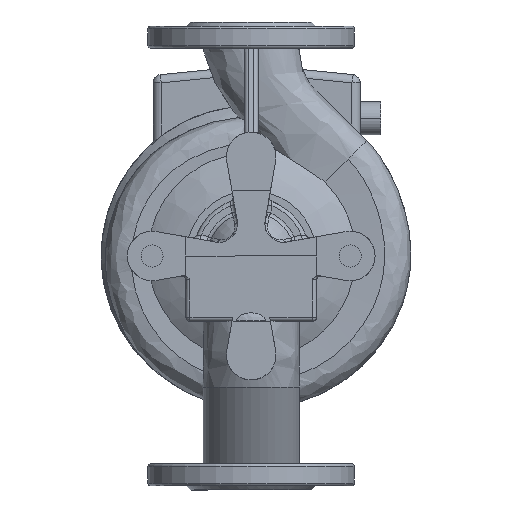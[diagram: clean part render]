
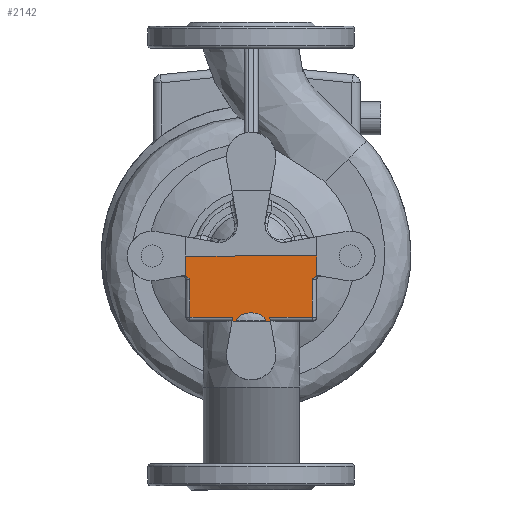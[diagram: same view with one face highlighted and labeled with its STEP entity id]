
A CAD part, front view. The second image highlights one B-rep face of the part: STEP entity #2142.
In plain terms, the highlighted planar face has unit normal (0, -1, 0).
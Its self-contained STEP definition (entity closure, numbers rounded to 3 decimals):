
#830=FACE_OUTER_BOUND('',#6216,.T.);
#1817=B_SPLINE_CURVE_WITH_KNOTS('',3,(#29228,#29229,#29230,#29231),
 .UNSPECIFIED.,.F.,.F.,(4,4),(0.,1.),.UNSPECIFIED.);
#1818=B_SPLINE_CURVE_WITH_KNOTS('',3,(#29233,#29234,#29235,#29236,#29237,
#29238,#29239,#29240,#29241,#29242,#29243,#29244,#29245,#29246),
 .UNSPECIFIED.,.F.,.F.,(4,2,2,2,2,2,4),(0.,0.125,0.25,0.5,0.75,0.875,1.),
 .UNSPECIFIED.);
#1819=B_SPLINE_CURVE_WITH_KNOTS('',3,(#29248,#29249,#29250,#29251),
 .UNSPECIFIED.,.F.,.F.,(4,4),(0.,1.),.UNSPECIFIED.);
#1820=B_SPLINE_CURVE_WITH_KNOTS('',3,(#29256,#29257,#29258,#29259,#29260,
#29261,#29262,#29263,#29264,#29265,#29266,#29267,#29268),.UNSPECIFIED.,
 .F.,.F.,(4,1,2,2,2,2,4),(0.,0.125,0.188,0.25,
0.5,0.75,1.),.UNSPECIFIED.);
#1821=B_SPLINE_CURVE_WITH_KNOTS('',3,(#29276,#29277,#29278,#29279,#29280,
#29281,#29282,#29283,#29284,#29285,#29286,#29287,#29288),.UNSPECIFIED.,
 .F.,.F.,(4,2,2,1,2,2,4),(0.,0.25,0.5,0.625,
0.688,0.75,1.),.UNSPECIFIED.);
#2142=ADVANCED_FACE('',(#830),#3125,.F.);
#3125=PLANE('',#18184);
#3679=LINE('',#29189,#4850);
#3683=LINE('',#29197,#4854);
#3687=LINE('',#29206,#4858);
#3688=LINE('',#29218,#4859);
#3693=LINE('',#29226,#4864);
#3694=LINE('',#29252,#4865);
#3695=LINE('',#29254,#4866);
#3696=LINE('',#29270,#4867);
#3697=LINE('',#29272,#4868);
#3698=LINE('',#29274,#4869);
#3699=LINE('',#29290,#4870);
#4850=VECTOR('',#20668,1.);
#4854=VECTOR('',#20672,1.);
#4858=VECTOR('',#20682,1.);
#4859=VECTOR('',#20685,1.);
#4864=VECTOR('',#20694,1.);
#4865=VECTOR('',#20695,1.);
#4866=VECTOR('',#20696,1.);
#4867=VECTOR('',#20697,1.);
#4868=VECTOR('',#20698,1.);
#4869=VECTOR('',#20699,1.);
#4870=VECTOR('',#20700,1.);
#6216=EDGE_LOOP('',(#7911,#7912,#7913,#7914,#7915,#7916,#7917,#7918,#7919,
#7920,#7921,#7922,#7923,#7924,#7925,#7926));
#7911=ORIENTED_EDGE('',*,*,#14638,.T.);
#7912=ORIENTED_EDGE('',*,*,#14630,.T.);
#7913=ORIENTED_EDGE('',*,*,#14621,.T.);
#7914=ORIENTED_EDGE('',*,*,#14639,.T.);
#7915=ORIENTED_EDGE('',*,*,#14640,.T.);
#7916=ORIENTED_EDGE('',*,*,#14641,.T.);
#7917=ORIENTED_EDGE('',*,*,#14625,.T.);
#7918=ORIENTED_EDGE('',*,*,#14633,.T.);
#7919=ORIENTED_EDGE('',*,*,#14642,.T.);
#7920=ORIENTED_EDGE('',*,*,#14643,.T.);
#7921=ORIENTED_EDGE('',*,*,#14644,.T.);
#7922=ORIENTED_EDGE('',*,*,#14645,.T.);
#7923=ORIENTED_EDGE('',*,*,#14646,.T.);
#7924=ORIENTED_EDGE('',*,*,#14647,.T.);
#7925=ORIENTED_EDGE('',*,*,#14648,.T.);
#7926=ORIENTED_EDGE('',*,*,#14649,.T.);
#12855=VERTEX_POINT('',#29187);
#12856=VERTEX_POINT('',#29188);
#12857=VERTEX_POINT('',#29190);
#12860=VERTEX_POINT('',#29196);
#12863=VERTEX_POINT('',#29207);
#12864=VERTEX_POINT('',#29217);
#12866=VERTEX_POINT('',#29227);
#12867=VERTEX_POINT('',#29232);
#12868=VERTEX_POINT('',#29247);
#12869=VERTEX_POINT('',#29253);
#12870=VERTEX_POINT('',#29255);
#12871=VERTEX_POINT('',#29269);
#12872=VERTEX_POINT('',#29271);
#12873=VERTEX_POINT('',#29273);
#12874=VERTEX_POINT('',#29275);
#12875=VERTEX_POINT('',#29289);
#14621=EDGE_CURVE('',#12857,#12855,#3679,.T.);
#14625=EDGE_CURVE('',#12856,#12860,#3683,.T.);
#14630=EDGE_CURVE('',#12863,#12857,#3687,.T.);
#14633=EDGE_CURVE('',#12860,#12864,#3688,.T.);
#14638=EDGE_CURVE('',#12866,#12863,#3693,.T.);
#14639=EDGE_CURVE('',#12855,#12867,#1817,.T.);
#14640=EDGE_CURVE('',#12867,#12868,#1818,.T.);
#14641=EDGE_CURVE('',#12868,#12856,#1819,.T.);
#14642=EDGE_CURVE('',#12864,#12869,#3694,.T.);
#14643=EDGE_CURVE('',#12869,#12870,#3695,.T.);
#14644=EDGE_CURVE('',#12870,#12871,#1820,.T.);
#14645=EDGE_CURVE('',#12871,#12872,#3696,.T.);
#14646=EDGE_CURVE('',#12872,#12873,#3697,.T.);
#14647=EDGE_CURVE('',#12873,#12874,#3698,.T.);
#14648=EDGE_CURVE('',#12874,#12875,#1821,.T.);
#14649=EDGE_CURVE('',#12875,#12866,#3699,.T.);
#18184=AXIS2_PLACEMENT_3D('',#29291,#20701,#20702);
#20668=DIRECTION('',(1.,0.,0.));
#20672=DIRECTION('',(1.,0.,0.));
#20682=DIRECTION('',(-0.174,0.,-0.985));
#20685=DIRECTION('',(-0.174,0.,0.985));
#20694=DIRECTION('',(1.,0.,0.));
#20695=DIRECTION('',(1.,0.,0.));
#20696=DIRECTION('',(0.,0.,1.));
#20697=DIRECTION('',(0.,0.,1.));
#20698=DIRECTION('',(-1.,0.,0.));
#20699=DIRECTION('',(0.,0.,-1.));
#20700=DIRECTION('',(0.,0.,-1.));
#20701=DIRECTION('',(0.,1.,0.));
#20702=DIRECTION('',(0.,0.,1.));
#29187=CARTESIAN_POINT('',(-14.565,-75.,-47.5));
#29188=CARTESIAN_POINT('',(6.646,-75.,-47.5));
#29189=CARTESIAN_POINT('',(43.54,-75.,-47.5));
#29190=CARTESIAN_POINT('',(-17.917,-75.,-47.5));
#29196=CARTESIAN_POINT('',(9.998,-75.,-47.5));
#29197=CARTESIAN_POINT('',(43.54,-75.,-47.5));
#29206=CARTESIAN_POINT('',(-17.917,-75.,-47.5));
#29207=CARTESIAN_POINT('',(-17.388,-75.,-44.5));
#29217=CARTESIAN_POINT('',(9.469,-75.,-44.5));
#29218=CARTESIAN_POINT('',(9.998,-75.,-47.5));
#29226=CARTESIAN_POINT('',(-17.917,-75.,-44.5));
#29227=CARTESIAN_POINT('',(-48.46,-75.,-44.5));
#29228=CARTESIAN_POINT('',(-14.565,-75.,-47.5));
#29229=CARTESIAN_POINT('',(-14.565,-75.,-47.415));
#29230=CARTESIAN_POINT('',(-14.565,-75.,-47.331));
#29231=CARTESIAN_POINT('',(-14.564,-75.,-47.246));
#29232=CARTESIAN_POINT('',(-14.564,-75.,-47.246));
#29233=CARTESIAN_POINT('',(-14.564,-75.,-47.246));
#29234=CARTESIAN_POINT('',(-14.556,-75.,-46.125));
#29235=CARTESIAN_POINT('',(-13.909,-75.,-45.119));
#29236=CARTESIAN_POINT('',(-12.328,-75.,-43.59));
#29237=CARTESIAN_POINT('',(-11.362,-75.,-43.014));
#29238=CARTESIAN_POINT('',(-8.358,-75.,-41.697));
#29239=CARTESIAN_POINT('',(-6.151,-75.,-41.323));
#29240=CARTESIAN_POINT('',(-1.776,-75.,-41.322));
#29241=CARTESIAN_POINT('',(0.406,-75.,-41.686));
#29242=CARTESIAN_POINT('',(3.434,-75.,-43.009));
#29243=CARTESIAN_POINT('',(4.395,-75.,-43.578));
#29244=CARTESIAN_POINT('',(5.992,-75.,-45.12));
#29245=CARTESIAN_POINT('',(6.637,-75.,-46.126));
#29246=CARTESIAN_POINT('',(6.645,-75.,-47.246));
#29247=CARTESIAN_POINT('',(6.645,-75.,-47.246));
#29248=CARTESIAN_POINT('',(6.645,-75.,-47.246));
#29249=CARTESIAN_POINT('',(6.645,-75.,-47.331));
#29250=CARTESIAN_POINT('',(6.646,-75.,-47.415));
#29251=CARTESIAN_POINT('',(6.646,-75.,-47.5));
#29252=CARTESIAN_POINT('',(43.54,-75.,-44.5));
#29253=CARTESIAN_POINT('',(40.54,-75.,-44.5));
#29254=CARTESIAN_POINT('',(40.54,-75.,-13.958));
#29255=CARTESIAN_POINT('',(40.54,-75.,-16.475));
#29256=CARTESIAN_POINT('',(40.54,-75.,-16.475));
#29257=CARTESIAN_POINT('',(40.699,-75.,-16.367));
#29258=CARTESIAN_POINT('',(40.909,-75.,-16.226));
#29259=CARTESIAN_POINT('',(41.073,-75.,-16.116));
#29260=CARTESIAN_POINT('',(41.173,-75.,-16.049));
#29261=CARTESIAN_POINT('',(41.192,-75.,-16.037));
#29262=CARTESIAN_POINT('',(41.527,-75.,-15.817));
#29263=CARTESIAN_POINT('',(41.725,-75.,-15.69));
#29264=CARTESIAN_POINT('',(42.256,-75.,-15.373));
#29265=CARTESIAN_POINT('',(42.476,-75.,-15.25));
#29266=CARTESIAN_POINT('',(43.017,-75.,-14.978));
#29267=CARTESIAN_POINT('',(43.282,-75.,-14.861));
#29268=CARTESIAN_POINT('',(43.54,-75.,-14.763));
#29269=CARTESIAN_POINT('',(43.54,-75.,-14.763));
#29270=CARTESIAN_POINT('',(43.54,-75.,0.));
#29271=CARTESIAN_POINT('',(43.54,-75.,0.));
#29272=CARTESIAN_POINT('',(43.54,-75.,0.));
#29273=CARTESIAN_POINT('',(-51.46,-75.,0.));
#29274=CARTESIAN_POINT('',(-51.46,-75.,0.));
#29275=CARTESIAN_POINT('',(-51.46,-75.,-14.763));
#29276=CARTESIAN_POINT('',(-51.46,-75.,-14.763));
#29277=CARTESIAN_POINT('',(-51.201,-75.,-14.861));
#29278=CARTESIAN_POINT('',(-50.904,-75.,-14.994));
#29279=CARTESIAN_POINT('',(-50.428,-75.,-15.234));
#29280=CARTESIAN_POINT('',(-50.129,-75.,-15.401));
#29281=CARTESIAN_POINT('',(-49.8,-75.,-15.597));
#29282=CARTESIAN_POINT('',(-49.627,-75.,-15.704));
#29283=CARTESIAN_POINT('',(-49.439,-75.,-15.824));
#29284=CARTESIAN_POINT('',(-49.311,-75.,-15.906));
#29285=CARTESIAN_POINT('',(-49.218,-75.,-15.967));
#29286=CARTESIAN_POINT('',(-49.018,-75.,-16.098));
#29287=CARTESIAN_POINT('',(-48.778,-75.,-16.259));
#29288=CARTESIAN_POINT('',(-48.46,-75.,-16.475));
#29289=CARTESIAN_POINT('',(-48.46,-75.,-16.475));
#29290=CARTESIAN_POINT('',(-48.46,-75.,-47.5));
#29291=CARTESIAN_POINT('',(-3.96,-75.,0.));
